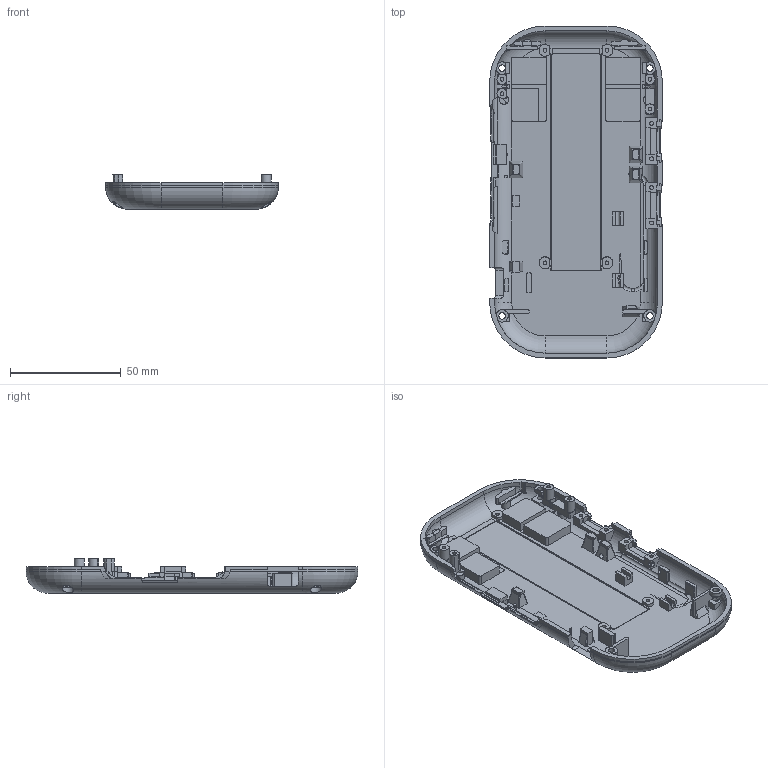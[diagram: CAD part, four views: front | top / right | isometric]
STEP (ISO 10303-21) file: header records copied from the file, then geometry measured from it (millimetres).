
FILE_DESCRIPTION(('Open CASCADE Model'),'2;1');
FILE_NAME('Open CASCADE Shape Model','2026-09-15T15:10:10',('Author'),( 'Open CASCADE'),'Open CASCADE STEP processor 7.7','Open CASCADE 7.7' ,'Unknown');
FILE_SCHEMA(('AUTOMOTIVE_DESIGN { 1 0 10303 214 1 1 1 1 }'));
Products named in the file (1): Open CASCADE STEP translator 7.7 2
Bounding box: 78 x 150 x 15.6 mm (x, y, z)
Volume: 34704.6 mm3; surface area: 32514.8 mm2
Topology: 1 solids, 1 shells, 911 faces, 2741 edges, 1845 vertices
Faces by surface type: plane 563, cylinder 237, bspline 48, torus 41, cone 22
Full cylindrical faces by diameter (mm): 1.65 x1, 1.7 x8, 1.8 x4, 2.17 x1, 2.9 x7, 4.2 x4
Entity records: 103834 total; most frequent: CARTESIAN_POINT 52327, DIRECTION 8807, ORIENTED_EDGE 5482, PCURVE 5482, DEFINITIONAL_REPRESENTATION 5482, LINE 5237, VECTOR 5237, EDGE_CURVE 2741
